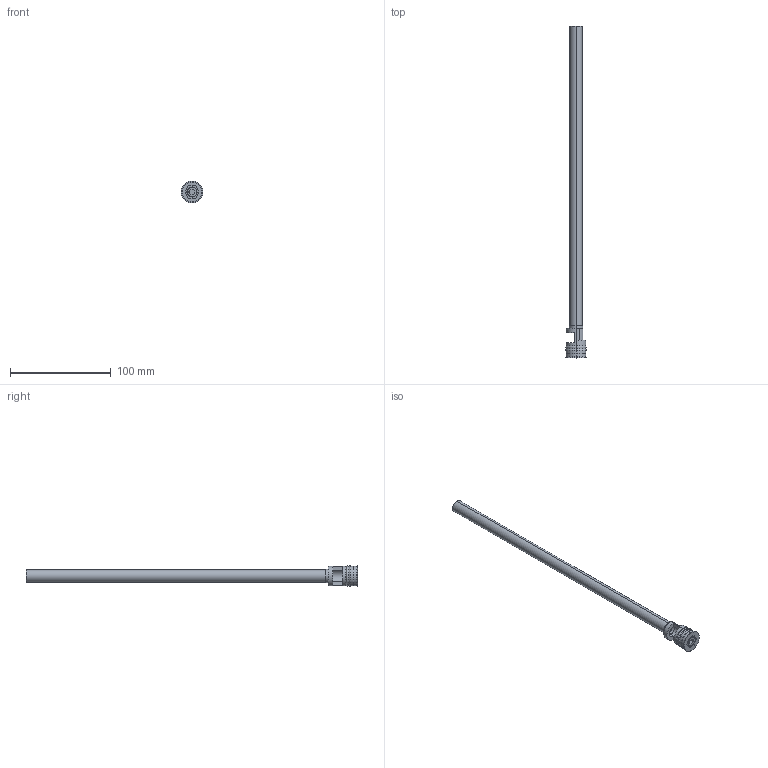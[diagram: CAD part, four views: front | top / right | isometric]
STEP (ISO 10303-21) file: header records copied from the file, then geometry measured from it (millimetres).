
FILE_DESCRIPTION (( 'STEP AP203' ), '1' );
FILE_NAME ('RF-20Fx300.STEP', '2015-11-24T13:27:05', ( 'Balzi' ), ( '' ), 'SwSTEP 2.0', 'SolidWorks 2015', '' );
FILE_SCHEMA (( 'CONFIG_CONTROL_DESIGN' ));
Length unit declared in the file: millimetre
Products named in the file (1): RF-20Fx300
Bounding box: 21.5 x 329.5 x 21.5 mm (x, y, z)
Volume: 10929 mm3; surface area: 25216.1 mm2
Topology: 1 solids, 1 shells, 74 faces, 170 edges, 106 vertices
Faces by surface type: cylinder 26, plane 26, cone 14, torus 8
Entity records: 2194 total; most frequent: DIRECTION 401, CARTESIAN_POINT 370, ORIENTED_EDGE 340, EDGE_CURVE 170, AXIS2_PLACEMENT_3D 161, VERTEX_POINT 106, CIRCLE 86, EDGE_LOOP 84
